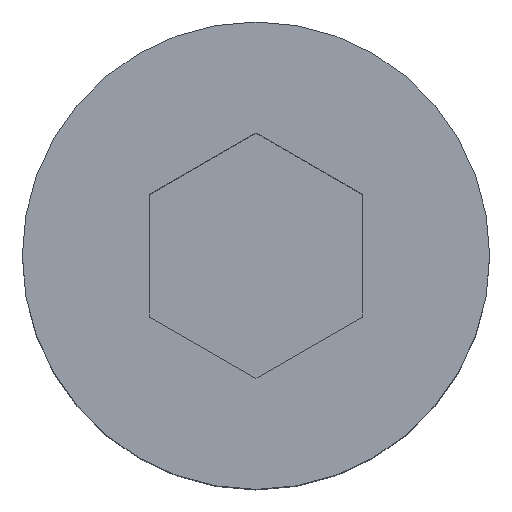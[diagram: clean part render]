
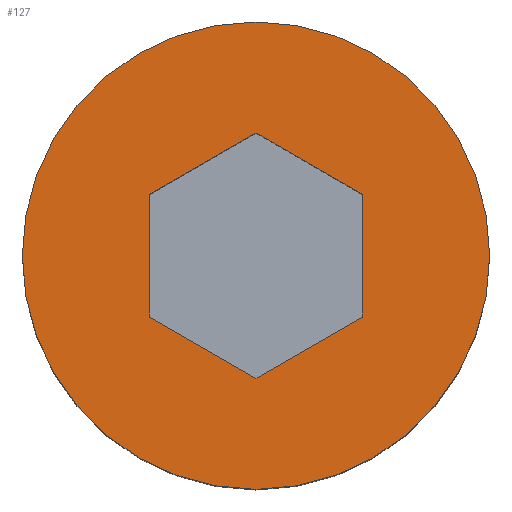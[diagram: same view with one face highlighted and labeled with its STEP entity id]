
A CAD part, top view. The second image highlights one B-rep face of the part: STEP entity #127.
In plain terms, the highlighted planar face has unit normal (0, 0, 1).
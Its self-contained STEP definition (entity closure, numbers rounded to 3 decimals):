
#9 = DIRECTION ( 'NONE',  ( 0., -1., 0. ) ) ;
#12 = DIRECTION ( 'NONE',  ( 1., 0., 0. ) ) ;
#13 = ORIENTED_EDGE ( 'NONE', *, *, #81, .F. ) ;
#14 = EDGE_CURVE ( 'NONE', #159, #197, #470, .T. ) ;
#17 = DIRECTION ( 'NONE',  ( 1., 0., 0. ) ) ;
#21 = DIRECTION ( 'NONE',  ( 1., 0., 0. ) ) ;
#22 = AXIS2_PLACEMENT_3D ( 'NONE', #462, #242, #12 ) ;
#25 = VERTEX_POINT ( 'NONE', #243 ) ;
#30 = ORIENTED_EDGE ( 'NONE', *, *, #256, .T. ) ;
#31 = VERTEX_POINT ( 'NONE', #282 ) ;
#42 = ORIENTED_EDGE ( 'NONE', *, *, #429, .T. ) ;
#55 = CARTESIAN_POINT ( 'NONE',  ( 0., 0., 10. ) ) ;
#65 = EDGE_CURVE ( 'NONE', #31, #381, #448, .T. ) ;
#80 = FACE_BOUND ( 'NONE', #153, .T. ) ;
#81 = EDGE_CURVE ( 'NONE', #381, #159, #229, .T. ) ;
#82 = DIRECTION ( 'NONE',  ( -0.866, 0.5, 0. ) ) ;
#83 = CARTESIAN_POINT ( 'NONE',  ( -3., -1.732, 10. ) ) ;
#91 = CIRCLE ( 'NONE', #214, 6.6 ) ;
#93 = VECTOR ( 'NONE', #424, 1000. ) ;
#116 = DIRECTION ( 'NONE',  ( -0.866, -0.5, 0. ) ) ;
#122 = DIRECTION ( 'NONE',  ( 0.866, 0.5, 0. ) ) ;
#127 = ADVANCED_FACE ( 'NONE', ( #80, #371 ), #394, .T. ) ;
#136 = ORIENTED_EDGE ( 'NONE', *, *, #204, .F. ) ;
#143 = EDGE_CURVE ( 'NONE', #25, #31, #261, .T. ) ;
#153 = EDGE_LOOP ( 'NONE', ( #254, #136, #404, #13, #165, #490 ) ) ;
#155 = CARTESIAN_POINT ( 'NONE',  ( 3., -1.732, 10. ) ) ;
#159 = VERTEX_POINT ( 'NONE', #489 ) ;
#165 = ORIENTED_EDGE ( 'NONE', *, *, #65, .F. ) ;
#174 = CIRCLE ( 'NONE', #22, 6.6 ) ;
#184 = VECTOR ( 'NONE', #116, 1000. ) ;
#193 = LINE ( 'NONE', #380, #93 ) ;
#197 = VERTEX_POINT ( 'NONE', #155 ) ;
#204 = EDGE_CURVE ( 'NONE', #197, #458, #193, .T. ) ;
#214 = AXIS2_PLACEMENT_3D ( 'NONE', #55, #472, #21 ) ;
#219 = VECTOR ( 'NONE', #82, 1000. ) ;
#223 = VECTOR ( 'NONE', #351, 1000. ) ;
#229 = LINE ( 'NONE', #432, #223 ) ;
#237 = AXIS2_PLACEMENT_3D ( 'NONE', #361, #245, #17 ) ;
#240 = CARTESIAN_POINT ( 'NONE',  ( -3., 1.732, 10. ) ) ;
#242 = DIRECTION ( 'NONE',  ( 0., 0., 1. ) ) ;
#243 = CARTESIAN_POINT ( 'NONE',  ( 0., 3.464, 10. ) ) ;
#245 = DIRECTION ( 'NONE',  ( 0., 0., 1. ) ) ;
#254 = ORIENTED_EDGE ( 'NONE', *, *, #293, .F. ) ;
#256 = EDGE_CURVE ( 'NONE', #350, #315, #174, .T. ) ;
#261 = LINE ( 'NONE', #377, #184 ) ;
#282 = CARTESIAN_POINT ( 'NONE',  ( -3., 1.732, 10. ) ) ;
#293 = EDGE_CURVE ( 'NONE', #458, #25, #475, .T. ) ;
#315 = VERTEX_POINT ( 'NONE', #406 ) ;
#319 = CARTESIAN_POINT ( 'NONE',  ( 3., 1.732, 10. ) ) ;
#330 = CARTESIAN_POINT ( 'NONE',  ( 3., 1.732, 10. ) ) ;
#349 = CARTESIAN_POINT ( 'NONE',  ( 0., -3.464, 10. ) ) ;
#350 = VERTEX_POINT ( 'NONE', #389 ) ;
#351 = DIRECTION ( 'NONE',  ( 0.866, -0.5, 0. ) ) ;
#361 = CARTESIAN_POINT ( 'NONE',  ( 0., 0., 10. ) ) ;
#368 = VECTOR ( 'NONE', #122, 1000. ) ;
#371 = FACE_OUTER_BOUND ( 'NONE', #419, .T. ) ;
#377 = CARTESIAN_POINT ( 'NONE',  ( 0., 3.464, 10. ) ) ;
#380 = CARTESIAN_POINT ( 'NONE',  ( 3., -1.732, 10. ) ) ;
#381 = VERTEX_POINT ( 'NONE', #83 ) ;
#389 = CARTESIAN_POINT ( 'NONE',  ( -6.6, 0., 10. ) ) ;
#394 = PLANE ( 'NONE',  #237 ) ;
#404 = ORIENTED_EDGE ( 'NONE', *, *, #14, .F. ) ;
#406 = CARTESIAN_POINT ( 'NONE',  ( 6.6, 0., 10. ) ) ;
#419 = EDGE_LOOP ( 'NONE', ( #30, #42 ) ) ;
#420 = VECTOR ( 'NONE', #9, 1000. ) ;
#424 = DIRECTION ( 'NONE',  ( 0., 1., 0. ) ) ;
#429 = EDGE_CURVE ( 'NONE', #315, #350, #91, .T. ) ;
#432 = CARTESIAN_POINT ( 'NONE',  ( -3., -1.732, 10. ) ) ;
#448 = LINE ( 'NONE', #240, #420 ) ;
#458 = VERTEX_POINT ( 'NONE', #330 ) ;
#462 = CARTESIAN_POINT ( 'NONE',  ( 0., 0., 10. ) ) ;
#470 = LINE ( 'NONE', #349, #368 ) ;
#472 = DIRECTION ( 'NONE',  ( 0., 0., 1. ) ) ;
#475 = LINE ( 'NONE', #319, #219 ) ;
#489 = CARTESIAN_POINT ( 'NONE',  ( 0., -3.464, 10. ) ) ;
#490 = ORIENTED_EDGE ( 'NONE', *, *, #143, .F. ) ;
